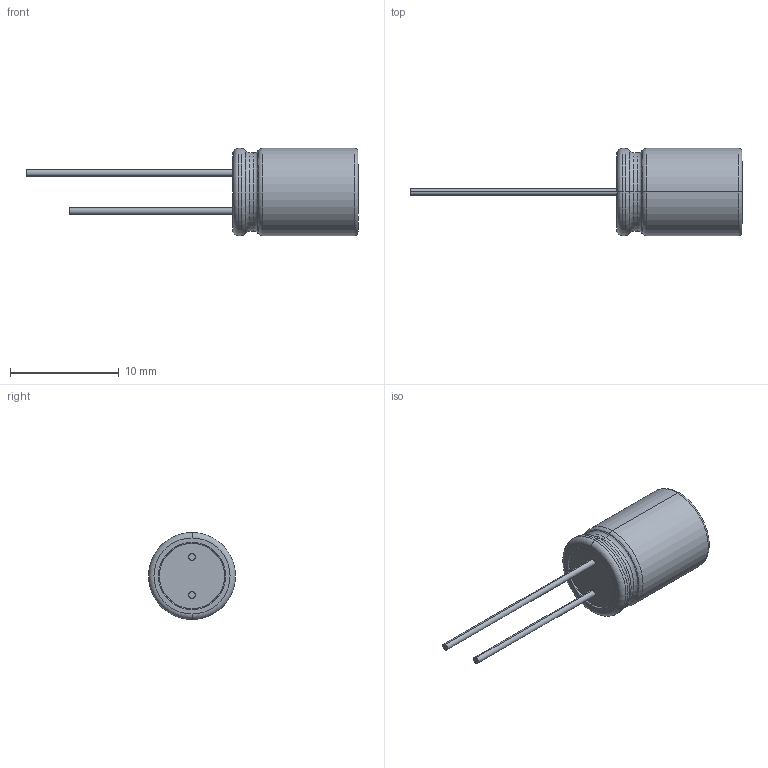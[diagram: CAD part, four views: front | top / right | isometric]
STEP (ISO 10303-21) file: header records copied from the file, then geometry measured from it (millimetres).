
FILE_DESCRIPTION((''),'2;1');
FILE_NAME('HYBRID_RADIAL8X115','2020-05-20T',('xy'),(''),'PRO/ENGINEER BY PARAMETRIC TECHNOLOGY CORPORATION, 2009380','PRO/ENGINEER BY PARAMETRIC TECHNOLOGY CORPORATION, 2009380','');
FILE_SCHEMA(('CONFIG_CONTROL_DESIGN'));
Length unit declared in the file: millimetre
Products named in the file (1): HYBRID_RADIAL8X115
Bounding box: 30.5 x 8 x 8 mm (x, y, z)
Volume: 569.3 mm3; surface area: 452.3 mm2
Topology: 1 solids, 1 shells, 419 faces, 1154 edges, 762 vertices
Faces by surface type: plane 387, torus 15, cylinder 13, cone 4
Entity records: 13110 total; most frequent: CARTESIAN_POINT 2345, ORIENTED_EDGE 2308, DIRECTION 2044, EDGE_CURVE 1154, VECTOR 1098, LINE 1098, VERTEX_POINT 762, AXIS2_PLACEMENT_3D 473
